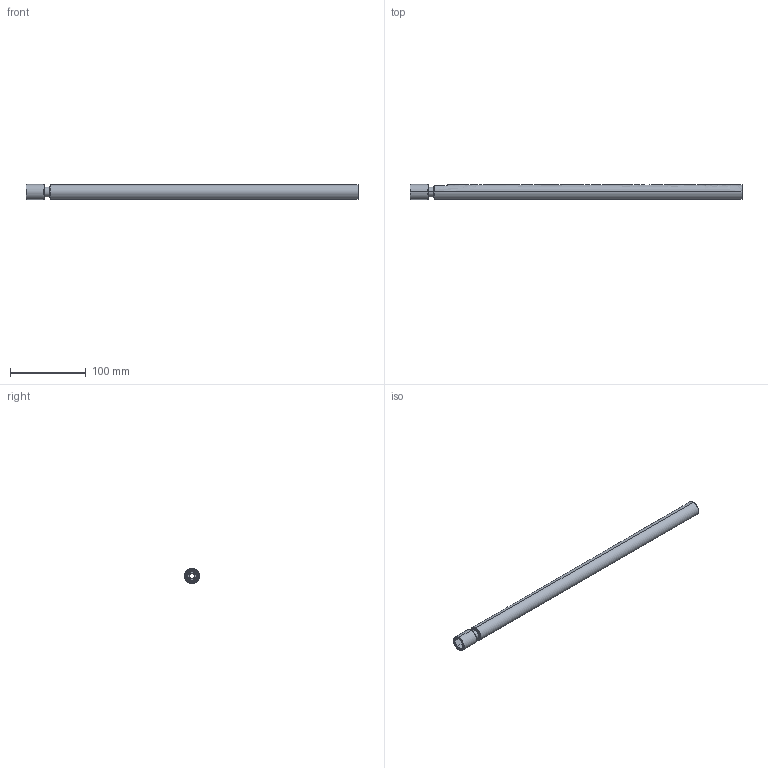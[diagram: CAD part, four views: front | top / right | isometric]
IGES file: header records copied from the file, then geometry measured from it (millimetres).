
Start section: SolidWorks IGES file using analytic representation for surfaces
Global section: file name: C:\Users\365admin\AppData\Local\Temp\InFlowXlateWorking\MLCR075L16.igs; native system: SolidWorks 2018; preprocessor: SolidWorks 2018; author: 365admin; date: 200824.183303; units: inch
Bounding box: 438.15 x 19.99 x 19.99 mm (x, y, z)
Surface area: 37099.7 mm2 (no closed solid volume)
Topology: 0 solids, 0 shells, 56 faces, 694 edges, 694 vertices
Faces by surface type: revolution 34, bspline 22
